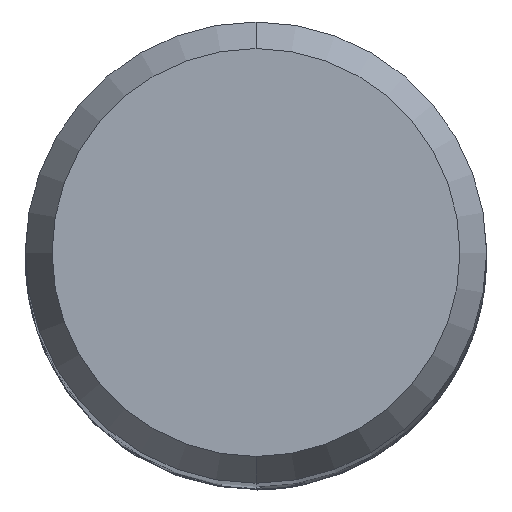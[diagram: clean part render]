
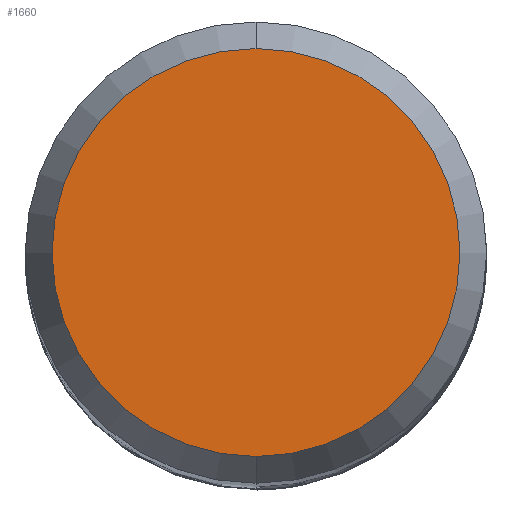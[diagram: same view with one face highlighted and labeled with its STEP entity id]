
A CAD part, top view. The second image highlights one B-rep face of the part: STEP entity #1660.
In plain terms, the highlighted planar face has unit normal (0, 0, 1).
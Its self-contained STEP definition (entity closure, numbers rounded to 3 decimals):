
#778=VERTEX_POINT('',#2249);
#924=EDGE_CURVE('',#778,#1090,#2410,.T.);
#1090=VERTEX_POINT('',#2592);
#1660=ADVANCED_FACE('',(#3215),#3216,.T.);
#1936=EDGE_CURVE('',#1090,#778,#3510,.T.);
#2249=CARTESIAN_POINT('',(0.0,3.538,0.0));
#2410=CIRCLE('',#5954,3.538);
#2592=CARTESIAN_POINT('',(0.,-3.538,0.0));
#3215=FACE_OUTER_BOUND('',#14814,.T.);
#3216=PLANE('',#14815);
#3510=CIRCLE('',#17707,3.538);
#5954=AXIS2_PLACEMENT_3D('',#20533,#20534,#20535);
#14814=EDGE_LOOP('',(#21309,#21310));
#14815=AXIS2_PLACEMENT_3D('',#21311,#21312,#21313);
#17707=AXIS2_PLACEMENT_3D('',#21586,#21587,#21588);
#20533=CARTESIAN_POINT('',(0.0,0.0,0.0));
#20534=DIRECTION('',(0.0,0.0,-1.0));
#20535=DIRECTION('',(0.0,1.0,0.0));
#21309=ORIENTED_EDGE('',*,*,#924,.F.);
#21310=ORIENTED_EDGE('',*,*,#1936,.F.);
#21311=CARTESIAN_POINT('',(0.0,1.769,0.0));
#21312=DIRECTION('',(-0.0,0.0,1.0));
#21313=DIRECTION('',(0.0,-1.0,0.0));
#21586=CARTESIAN_POINT('',(0.0,0.0,0.0));
#21587=DIRECTION('',(0.0,0.0,-1.0));
#21588=DIRECTION('',(0.0,1.0,0.0));
